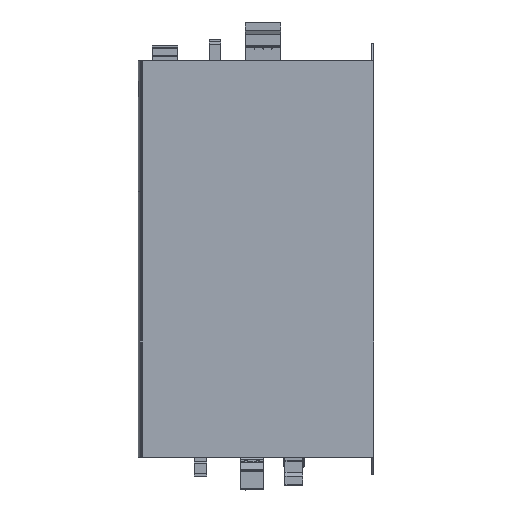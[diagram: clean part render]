
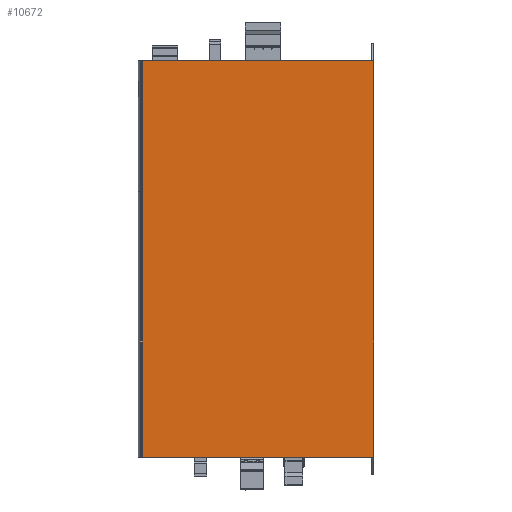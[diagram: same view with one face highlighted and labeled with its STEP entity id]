
A CAD part, front view. The second image highlights one B-rep face of the part: STEP entity #10672.
In plain terms, the highlighted planar face has unit normal (0, -1, 0).
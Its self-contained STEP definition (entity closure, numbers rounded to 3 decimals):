
#351=DIRECTION('',(1.,0.,0.));
#352=VECTOR('',#351,200.6);
#353=CARTESIAN_POINT('',(0.,-22.5,343.));
#354=LINE('',#353,#352);
#434=DIRECTION('',(1.,0.,0.));
#435=VECTOR('',#434,200.6);
#436=CARTESIAN_POINT('',(0.,-22.5,0.));
#437=LINE('',#436,#435);
#438=DIRECTION('',(0.,0.,1.));
#439=VECTOR('',#438,343.);
#440=CARTESIAN_POINT('',(200.6,-22.5,0.));
#441=LINE('',#440,#439);
#446=DIRECTION('',(0.,0.,1.));
#447=VECTOR('',#446,343.);
#448=CARTESIAN_POINT('',(0.,-22.5,0.));
#449=LINE('',#448,#447);
#9298=CARTESIAN_POINT('',(200.6,-22.5,0.));
#9300=VERTEX_POINT('',#9298);
#9460=CARTESIAN_POINT('',(0.,-22.5,0.));
#9462=VERTEX_POINT('',#9460);
#9733=CARTESIAN_POINT('',(200.6,-22.5,343.));
#9734=VERTEX_POINT('',#9733);
#9909=CARTESIAN_POINT('',(0.,-22.5,343.));
#9910=VERTEX_POINT('',#9909);
#10660=CARTESIAN_POINT('',(200.6,-22.5,0.));
#10661=DIRECTION('',(0.,1.,0.));
#10662=DIRECTION('',(1.,0.,0.));
#10663=AXIS2_PLACEMENT_3D('',#10660,#10661,#10662);
#10664=PLANE('',#10663);
#10665=ORIENTED_EDGE('',*,*,#10516,.F.);
#10667=ORIENTED_EDGE('',*,*,#10666,.T.);
#10668=ORIENTED_EDGE('',*,*,#10599,.T.);
#10669=ORIENTED_EDGE('',*,*,#10377,.F.);
#10670=EDGE_LOOP('',(#10665,#10667,#10668,#10669));
#10671=FACE_OUTER_BOUND('',#10670,.F.);
#10377=EDGE_CURVE('',#9300,#9734,#441,.T.);
#10516=EDGE_CURVE('',#9462,#9300,#437,.T.);
#10599=EDGE_CURVE('',#9910,#9734,#354,.T.);
#10666=EDGE_CURVE('',#9462,#9910,#449,.T.);
#10672=ADVANCED_FACE('',(#10671),#10664,.F.);
